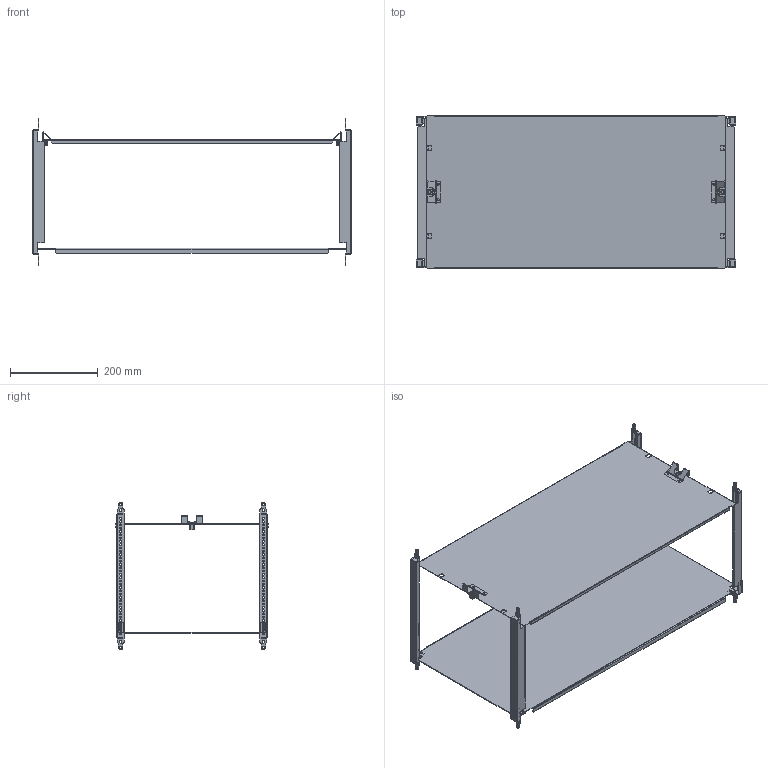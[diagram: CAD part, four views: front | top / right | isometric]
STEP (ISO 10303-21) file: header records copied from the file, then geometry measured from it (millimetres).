
FILE_DESCRIPTION(('CAx-IF Rec.Pracs.---Model Styling and Organization---1.2---2011-12-15','CAx-IF Rec.Pracs.---Geometric and Assembly Validation Properties---4.1---2014-06-16','CAx-IF Rec.Pracs.---PMI Polyline Presentation---2.0---2013-05-24'),'2;1');
FILE_NAME('R5PKIB0835.stp','2021-05-05T13:52:23+03:00',(''),(''),'STEP Interface 4.4 by CT CoreTechnologie','3D_Evolution4.4 by CT CoreTechnologie','');
FILE_SCHEMA(('AUTOMOTIVE_DESIGN { 1 0 10303 214 1 1 1 1 }'));
Length unit declared in the file: millimetre
Products named in the file (12): R5PKIB0835; RB.0348.00.00.0_-00; 294-9118.00-00050(1); RB.0376.00.00.0_-00; 294-9118.00-00050(2); RB.0516.00.00.0 ÑÁ_-11; RB.0516.00.01.0_-11; RB.0392.00.02.0_ª«¨­ç(1); RB.0392.00.02.0_ª«¨­ç(2); RB.0329.00.00.0_-00; RB.0586.00.00.0_-09; 294-9118.00-00050(3)
Assembly tree (19 placements, depth 3):
  R5PKIB0835
    RB.0348.00.00.0_-00  x4
    294-9118.00-00050(1)
      RB.0376.00.00.0_-00
      294-9118.00-00050(2)
    RB.0516.00.00.0 ÑÁ_-11
      RB.0516.00.01.0_-11
      RB.0392.00.02.0_ª«¨­ç(1)
      RB.0392.00.02.0_ª«¨­ç(2)
    RB.0329.00.00.0_-00  x4
    RB.0586.00.00.0_-09
    294-9118.00-00050(3)
      294-9118.00-00050(2)
      RB.0376.00.00.0_-00
Bounding box: 726 x 348 x 335 mm (x, y, z)
Surface area: 1155592.3 mm2 (no closed solid volume)
Topology: 0 solids, 48 shells, 1108 faces, 2938 edges, 1924 vertices
Faces by surface type: plane 556, cylinder 520, bspline 32
Entity records: 15978 total; most frequent: CARTESIAN_POINT 2889, DIRECTION 2589, ORIENTED_EDGE 2550, EDGE_CURVE 1275, VECTOR 929, LINE 929, VERTEX_POINT 838, AXIS2_PLACEMENT_3D 830
